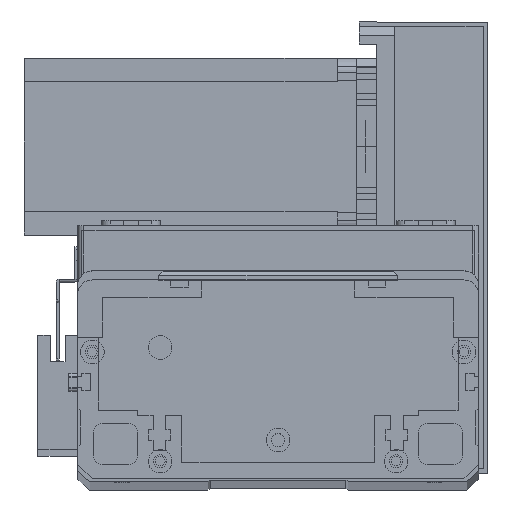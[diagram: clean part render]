
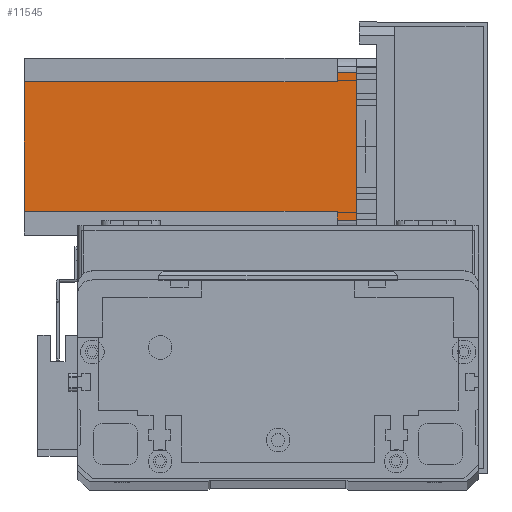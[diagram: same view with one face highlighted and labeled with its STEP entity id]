
A CAD part, top view. The second image highlights one B-rep face of the part: STEP entity #11545.
In plain terms, the highlighted planar face has unit normal (0, 0, 1) as drawn and (0, 1, 0) by its records, which use the part's own axes.
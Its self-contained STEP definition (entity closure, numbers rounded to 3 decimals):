
#247 = CARTESIAN_POINT ( 'NONE',  ( 52., 60., -6.5 ) ) ;
#1615 = DIRECTION ( 'NONE',  ( -1., 0., 0. ) ) ;
#1725 = CARTESIAN_POINT ( 'NONE',  ( 8., 60., -6.5 ) ) ;
#2407 = EDGE_LOOP ( 'NONE', ( #7318, #9214, #9942, #11067, #13150, #14927, #13673, #11152 ) ) ;
#2805 = VERTEX_POINT ( 'NONE', #5898 ) ;
#2979 = EDGE_CURVE ( 'NONE', #3092, #20368, #4174, .T. ) ;
#3092 = VERTEX_POINT ( 'NONE', #19696 ) ;
#4174 = LINE ( 'NONE', #23934, #27781 ) ;
#4385 = EDGE_CURVE ( 'NONE', #10976, #20368, #15159, .T. ) ;
#4646 = EDGE_CURVE ( 'NONE', #2805, #10976, #13373, .T. ) ;
#4968 = EDGE_CURVE ( 'NONE', #2805, #8052, #28756, .T. ) ;
#5209 = EDGE_CURVE ( 'NONE', #7510, #8052, #17948, .T. ) ;
#5435 = EDGE_CURVE ( 'NONE', #7510, #15644, #10798, .T. ) ;
#5551 = DIRECTION ( 'NONE',  ( 0., 0., -1. ) ) ;
#5898 = CARTESIAN_POINT ( 'NONE',  ( 52., 60., -112.5 ) ) ;
#5950 = EDGE_CURVE ( 'NONE', #15644, #25707, #28021, .T. ) ;
#7318 = ORIENTED_EDGE ( 'NONE', *, *, #21061, .F. ) ;
#7510 = VERTEX_POINT ( 'NONE', #13804 ) ;
#8039 = CARTESIAN_POINT ( 'NONE',  ( 8., 60., -112.5 ) ) ;
#8052 = VERTEX_POINT ( 'NONE', #8039 ) ;
#9040 = VECTOR ( 'NONE', #27800, 1000. ) ;
#9214 = ORIENTED_EDGE ( 'NONE', *, *, #2979, .T. ) ;
#9369 = CARTESIAN_POINT ( 'NONE',  ( 0., 60., 0. ) ) ;
#9906 = CARTESIAN_POINT ( 'NONE',  ( 0., 60., -112.5 ) ) ;
#9942 = ORIENTED_EDGE ( 'NONE', *, *, #4385, .F. ) ;
#10798 = LINE ( 'NONE', #1725, #23510 ) ;
#10935 = VECTOR ( 'NONE', #25168, 1000. ) ;
#10976 = VERTEX_POINT ( 'NONE', #21645 ) ;
#11067 = ORIENTED_EDGE ( 'NONE', *, *, #4646, .F. ) ;
#11152 = ORIENTED_EDGE ( 'NONE', *, *, #5950, .T. ) ;
#11545 = ADVANCED_FACE ( 'NONE', ( #29210 ), #14792, .T. ) ;
#13150 = ORIENTED_EDGE ( 'NONE', *, *, #4968, .T. ) ;
#13373 = LINE ( 'NONE', #20487, #24610 ) ;
#13673 = ORIENTED_EDGE ( 'NONE', *, *, #5435, .T. ) ;
#13804 = CARTESIAN_POINT ( 'NONE',  ( 8., 60., -6.5 ) ) ;
#14453 = CARTESIAN_POINT ( 'NONE',  ( 5., 60., 0. ) ) ;
#14718 = DIRECTION ( 'NONE',  ( 0., 0., 1. ) ) ;
#14757 = DIRECTION ( 'NONE',  ( 0., 1., 0. ) ) ;
#14792 = PLANE ( 'NONE',  #27316 ) ;
#14819 = CARTESIAN_POINT ( 'NONE',  ( 0., 60., -112.5 ) ) ;
#14919 = DIRECTION ( 'NONE',  ( -1., 0., 0. ) ) ;
#14927 = ORIENTED_EDGE ( 'NONE', *, *, #5209, .F. ) ;
#15159 = LINE ( 'NONE', #247, #9040 ) ;
#15188 = CARTESIAN_POINT ( 'NONE',  ( 5., 60., -6.5 ) ) ;
#15437 = DIRECTION ( 'NONE',  ( 0., 0., 1. ) ) ;
#15644 = VERTEX_POINT ( 'NONE', #15188 ) ;
#16312 = CARTESIAN_POINT ( 'NONE',  ( 55., 60., -6.5 ) ) ;
#16509 = VECTOR ( 'NONE', #5551, 1000. ) ;
#17948 = LINE ( 'NONE', #21695, #16509 ) ;
#19696 = CARTESIAN_POINT ( 'NONE',  ( 55., 60., 0. ) ) ;
#20368 = VERTEX_POINT ( 'NONE', #16312 ) ;
#20487 = CARTESIAN_POINT ( 'NONE',  ( 52., 60., -112.5 ) ) ;
#21061 = EDGE_CURVE ( 'NONE', #3092, #25707, #22233, .T. ) ;
#21645 = CARTESIAN_POINT ( 'NONE',  ( 52., 60., -6.5 ) ) ;
#21695 = CARTESIAN_POINT ( 'NONE',  ( 8., 60., -112.5 ) ) ;
#22075 = VECTOR ( 'NONE', #22927, 1000. ) ;
#22128 = VECTOR ( 'NONE', #14919, 1000. ) ;
#22233 = LINE ( 'NONE', #9369, #10935 ) ;
#22927 = DIRECTION ( 'NONE',  ( 0., 0., 1. ) ) ;
#23510 = VECTOR ( 'NONE', #1615, 1000. ) ;
#23536 = DIRECTION ( 'NONE',  ( 0., 0., -1. ) ) ;
#23934 = CARTESIAN_POINT ( 'NONE',  ( 55., 60., -112.5 ) ) ;
#24610 = VECTOR ( 'NONE', #15437, 1000. ) ;
#25168 = DIRECTION ( 'NONE',  ( -1., 0., 0. ) ) ;
#25707 = VERTEX_POINT ( 'NONE', #14453 ) ;
#27197 = CARTESIAN_POINT ( 'NONE',  ( 5., 60., -112.5 ) ) ;
#27316 = AXIS2_PLACEMENT_3D ( 'NONE', #14819, #14757, #14718 ) ;
#27781 = VECTOR ( 'NONE', #23536, 1000. ) ;
#27800 = DIRECTION ( 'NONE',  ( 1., 0., 0. ) ) ;
#28021 = LINE ( 'NONE', #27197, #22075 ) ;
#28756 = LINE ( 'NONE', #9906, #22128 ) ;
#29210 = FACE_OUTER_BOUND ( 'NONE', #2407, .T. ) ;
